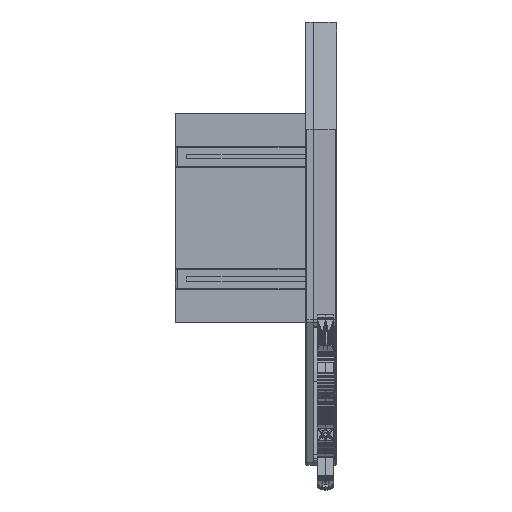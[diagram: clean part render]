
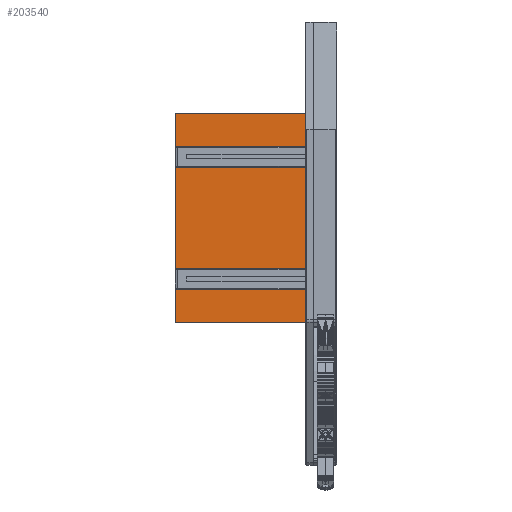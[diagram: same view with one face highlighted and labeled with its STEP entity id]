
A CAD part, top view. The second image highlights one B-rep face of the part: STEP entity #203540.
In plain terms, the highlighted planar face has unit normal (0, 0, 1).
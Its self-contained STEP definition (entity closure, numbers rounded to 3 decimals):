
#1070=ELLIPSE('',#217991,1.155,1.);
#1095=PLANE('',#217990);
#15447=FACE_OUTER_BOUND('',#29839,.T.);
#29839=EDGE_LOOP('',(#146000,#146001,#146002,#146003,#146004,#146005,#146006,
#146007,#146008,#146009,#146010,#146011,#146012));
#45254=LINE('',#290182,#73932);
#45291=LINE('',#290273,#73969);
#45296=LINE('',#290283,#73974);
#45308=LINE('',#290307,#73986);
#45309=LINE('',#290309,#73987);
#45310=LINE('',#290311,#73988);
#45311=LINE('',#290313,#73989);
#45312=LINE('',#290315,#73990);
#45313=LINE('',#290316,#73991);
#45314=LINE('',#290318,#73992);
#45315=LINE('',#290320,#73993);
#45316=LINE('',#290322,#73994);
#73932=VECTOR('',#232482,10.);
#73969=VECTOR('',#232547,10.);
#73974=VECTOR('',#232554,10.);
#73986=VECTOR('',#232574,10.);
#73987=VECTOR('',#232575,10.);
#73988=VECTOR('',#232576,10.);
#73989=VECTOR('',#232577,10.);
#73990=VECTOR('',#232578,10.);
#73991=VECTOR('',#232579,10.);
#73992=VECTOR('',#232580,10.);
#73993=VECTOR('',#232581,10.);
#73994=VECTOR('',#232582,10.);
#102701=VERTEX_POINT('',#290179);
#102702=VERTEX_POINT('',#290181);
#102729=VERTEX_POINT('',#290270);
#102730=VERTEX_POINT('',#290272);
#102732=VERTEX_POINT('',#290277);
#102734=VERTEX_POINT('',#290281);
#102743=VERTEX_POINT('',#290308);
#102744=VERTEX_POINT('',#290310);
#102745=VERTEX_POINT('',#290312);
#102746=VERTEX_POINT('',#290314);
#102747=VERTEX_POINT('',#290317);
#102748=VERTEX_POINT('',#290319);
#102749=VERTEX_POINT('',#290321);
#117138=EDGE_CURVE('',#102701,#102702,#45254,.T.);
#117178=EDGE_CURVE('',#102730,#102729,#45291,.T.);
#117183=EDGE_CURVE('',#102732,#102734,#45296,.T.);
#117195=EDGE_CURVE('',#102732,#102701,#45308,.T.);
#117196=EDGE_CURVE('',#102734,#102743,#45309,.T.);
#117197=EDGE_CURVE('',#102743,#102744,#45310,.T.);
#117198=EDGE_CURVE('',#102745,#102744,#45311,.T.);
#117199=EDGE_CURVE('',#102745,#102746,#45312,.T.);
#117200=EDGE_CURVE('',#102746,#102730,#45313,.T.);
#117201=EDGE_CURVE('',#102747,#102729,#45314,.T.);
#117202=EDGE_CURVE('',#102748,#102747,#45315,.T.);
#117203=EDGE_CURVE('',#102749,#102748,#45316,.T.);
#117204=EDGE_CURVE('',#102702,#102749,#1070,.T.);
#146000=ORIENTED_EDGE('',*,*,#117138,.F.);
#146001=ORIENTED_EDGE('',*,*,#117195,.F.);
#146002=ORIENTED_EDGE('',*,*,#117183,.T.);
#146003=ORIENTED_EDGE('',*,*,#117196,.T.);
#146004=ORIENTED_EDGE('',*,*,#117197,.T.);
#146005=ORIENTED_EDGE('',*,*,#117198,.F.);
#146006=ORIENTED_EDGE('',*,*,#117199,.T.);
#146007=ORIENTED_EDGE('',*,*,#117200,.T.);
#146008=ORIENTED_EDGE('',*,*,#117178,.T.);
#146009=ORIENTED_EDGE('',*,*,#117201,.F.);
#146010=ORIENTED_EDGE('',*,*,#117202,.F.);
#146011=ORIENTED_EDGE('',*,*,#117203,.F.);
#146012=ORIENTED_EDGE('',*,*,#117204,.F.);
#203540=ADVANCED_FACE('',(#15447),#1095,.F.);
#217990=AXIS2_PLACEMENT_3D('',#290306,#232572,#232573);
#217991=AXIS2_PLACEMENT_3D('',#290323,#232583,#232584);
#232482=DIRECTION('',(-1.,0.,0.));
#232547=DIRECTION('',(1.,0.,0.));
#232554=DIRECTION('',(-1.,0.,0.));
#232572=DIRECTION('center_axis',(0.,0.,
-1.));
#232573=DIRECTION('ref_axis',(0.,1.,0.));
#232574=DIRECTION('',(0.,-1.,0.));
#232575=DIRECTION('',(0.,1.,0.));
#232576=DIRECTION('',(1.,0.,0.));
#232577=DIRECTION('',(0.,-1.,0.));
#232578=DIRECTION('',(-1.,0.,0.));
#232579=DIRECTION('',(0.,1.,0.));
#232580=DIRECTION('',(0.,-1.,0.));
#232581=DIRECTION('',(1.,0.,0.));
#232582=DIRECTION('',(0.,1.,0.));
#232583=DIRECTION('center_axis',(0.,0.,
-1.));
#232584=DIRECTION('ref_axis',(0.,-1.,0.));
#290179=CARTESIAN_POINT('',(-46.546,-18.58,4.997));
#290181=CARTESIAN_POINT('',(-126.499,-18.58,4.997));
#290182=CARTESIAN_POINT('',(-102.774,-18.58,4.997));
#290270=CARTESIAN_POINT('',(-46.546,85.238,4.997));
#290272=CARTESIAN_POINT('',(-125.198,85.238,4.997));
#290273=CARTESIAN_POINT('',(-125.854,85.238,4.997));
#290277=CARTESIAN_POINT('',(-46.546,6.691,4.997));
#290281=CARTESIAN_POINT('',(-125.198,6.691,4.997));
#290283=CARTESIAN_POINT('',(-89.02,6.691,4.997));
#290306=CARTESIAN_POINT('Origin',(-121.51,-19.57,4.997));
#290307=CARTESIAN_POINT('',(-46.546,17.684,4.997));
#290308=CARTESIAN_POINT('',(-125.198,10.138,4.997));
#290309=CARTESIAN_POINT('',(-125.198,-6.44,4.997));
#290310=CARTESIAN_POINT('',(-46.546,10.138,4.997));
#290311=CARTESIAN_POINT('',(-120.854,10.138,4.997));
#290312=CARTESIAN_POINT('',(-46.546,81.791,4.997));
#290313=CARTESIAN_POINT('',(-46.546,17.684,4.997));
#290314=CARTESIAN_POINT('',(-125.198,81.791,4.997));
#290315=CARTESIAN_POINT('',(-84.02,81.791,4.997));
#290316=CARTESIAN_POINT('',(-125.198,31.11,4.997));
#290317=CARTESIAN_POINT('',(-46.546,109.935,4.997));
#290318=CARTESIAN_POINT('',(-46.546,17.684,4.997));
#290319=CARTESIAN_POINT('',(-126.51,109.935,4.997));
#290320=CARTESIAN_POINT('',(-102.774,109.935,4.997));
#290321=CARTESIAN_POINT('',(-126.51,-18.416,4.997));
#290322=CARTESIAN_POINT('',(-126.51,-3.086,4.997));
#290323=CARTESIAN_POINT('Origin',(-125.51,-18.416,4.997));
